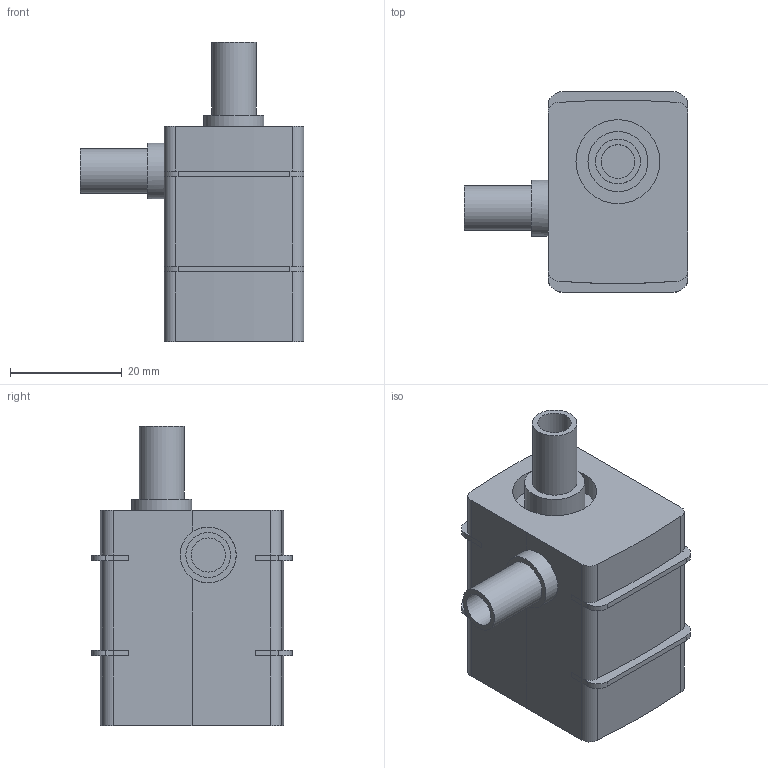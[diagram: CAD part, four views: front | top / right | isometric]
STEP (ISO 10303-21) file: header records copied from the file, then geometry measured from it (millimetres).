
FILE_DESCRIPTION(('FreeCAD Model'),'2;1');
FILE_NAME('Open CASCADE Shape Model','2023-04-10T16:48:23',('Author'),( ''),'Open CASCADE STEP processor 7.5','FreeCAD','Unknown');
FILE_SCHEMA(('AUTOMOTIVE_DESIGN { 1 0 10303 214 1 1 1 1 }'));
Length unit declared in the file: millimetre
Products named in the file (2): brushless DC pump; Body096
Assembly tree (1 placements, depth 2):
  brushless DC pump
    Body096
Bounding box: 40 x 35.8 x 53.5 mm (x, y, z)
Volume: 31143.6 mm3; surface area: 8282.3 mm2
Topology: 1 solids, 1 shells, 74 faces, 182 edges, 116 vertices
Faces by surface type: plane 41, cylinder 33
Full cylindrical faces by diameter (mm): 6.032 x1, 6.115 x1, 8 x2, 10 x1, 10.73 x1, 15 x1
Entity records: 4697 total; most frequent: CARTESIAN_POINT 948, DIRECTION 731, LINE 410, VECTOR 410, ORIENTED_EDGE 364, PCURVE 364, DEFINITIONAL_REPRESENTATION 364, EDGE_CURVE 182
